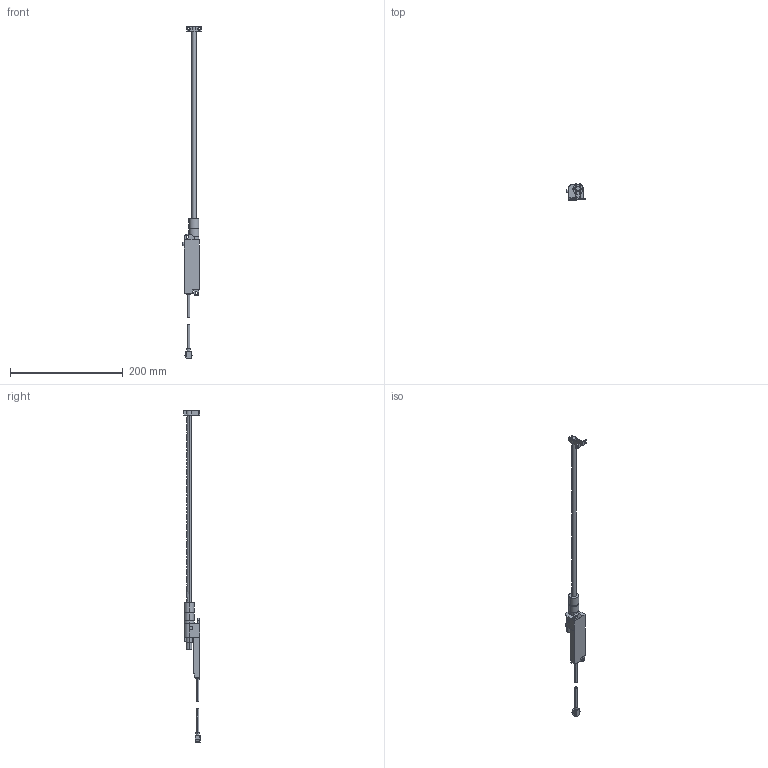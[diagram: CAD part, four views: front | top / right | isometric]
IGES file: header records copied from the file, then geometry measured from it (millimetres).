
Start section: SolidWorks IGES FILE using analytic representation for surfaces
Global section: file name: \\intra-srv04\開発データ\CAD_Data\CAD委員会\3D電子ｶﾀﾛｸﾞ\製品カタログ（新）\0_IGES\ER-VS01(+ER-VAB032).IGS; native system: SolidWorks 2004 by SolidWorks Corporation; preprocessor: Version 5.3; author: yk0651; date: 051026.150927; units: millimetre
Bounding box: 33 x 28.9 x 589.7 mm (x, y, z)
Surface area: 32368.8 mm2 (no closed solid volume)
Topology: 0 solids, 0 shells, 254 faces, 4676 edges, 4676 vertices
Faces by surface type: revolution 137, bspline 117
